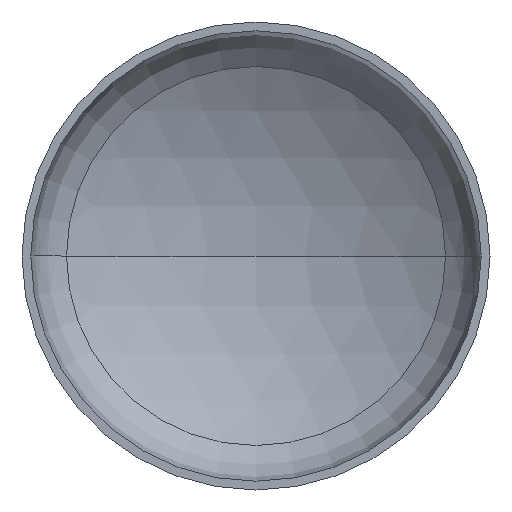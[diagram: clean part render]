
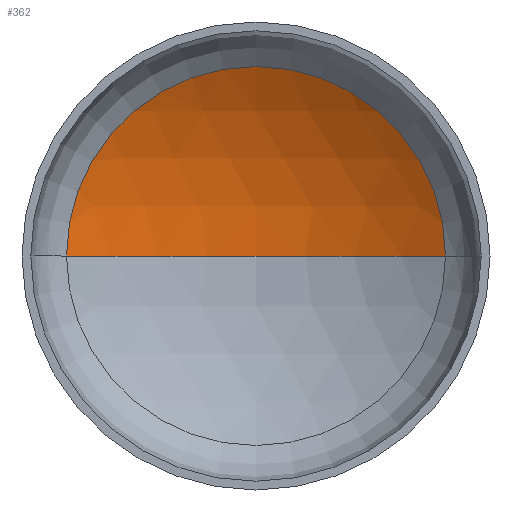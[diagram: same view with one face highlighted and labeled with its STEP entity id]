
A CAD part, front view. The second image highlights one B-rep face of the part: STEP entity #362.
In plain terms, the highlighted spherical face has radius 2720 mm.
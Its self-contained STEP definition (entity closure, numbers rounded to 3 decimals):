
#3 = CARTESIAN_POINT ( 'NONE',  ( 0., 572.784, 0. ) ) ;
#4 = AXIS2_PLACEMENT_3D ( 'NONE', #328, #169, #144 ) ;
#12 = ORIENTED_EDGE ( 'NONE', *, *, #148, .F. ) ;
#16 = ORIENTED_EDGE ( 'NONE', *, *, #140, .T. ) ;
#26 = EDGE_LOOP ( 'NONE', ( #12, #16, #165 ) ) ;
#45 = AXIS2_PLACEMENT_3D ( 'NONE', #213, #215, #263 ) ;
#48 = AXIS2_PLACEMENT_3D ( 'NONE', #399, #361, #194 ) ;
#50 = AXIS2_PLACEMENT_3D ( 'NONE', #3, #220, #221 ) ;
#55 = VERTEX_POINT ( 'NONE', #351 ) ;
#100 = VERTEX_POINT ( 'NONE', #186 ) ;
#103 = VERTEX_POINT ( 'NONE', #205 ) ;
#121 = EDGE_CURVE ( 'NONE', #103, #55, #332, .T. ) ;
#135 = CIRCLE ( 'NONE', #48, 2720. ) ;
#140 = EDGE_CURVE ( 'NONE', #100, #103, #135, .T. ) ;
#144 = DIRECTION ( 'NONE',  ( -1., 0., 0. ) ) ;
#148 = EDGE_CURVE ( 'NONE', #100, #55, #372, .T. ) ;
#165 = ORIENTED_EDGE ( 'NONE', *, *, #121, .T. ) ;
#169 = DIRECTION ( 'NONE',  ( 0., 0., -1. ) ) ;
#186 = CARTESIAN_POINT ( 'NONE',  ( 0., 946.933, 0. ) ) ;
#194 = DIRECTION ( 'NONE',  ( -1., 0., 0. ) ) ;
#205 = CARTESIAN_POINT ( 'NONE',  ( 1376.729, 572.784, 0. ) ) ;
#213 = CARTESIAN_POINT ( 'NONE',  ( 0., -1773.067, 0. ) ) ;
#215 = DIRECTION ( 'NONE',  ( 0., 0., 1. ) ) ;
#220 = DIRECTION ( 'NONE',  ( 0., -1., 0. ) ) ;
#221 = DIRECTION ( 'NONE',  ( 1., 0., 0. ) ) ;
#263 = DIRECTION ( 'NONE',  ( 1., 0., 0. ) ) ;
#328 = CARTESIAN_POINT ( 'NONE',  ( 0., -1773.067, 0. ) ) ;
#332 = CIRCLE ( 'NONE', #50, 1376.729 ) ;
#347 = SPHERICAL_SURFACE ( 'NONE', #4, 2720. ) ;
#351 = CARTESIAN_POINT ( 'NONE',  ( -1376.729, 572.784, 0. ) ) ;
#361 = DIRECTION ( 'NONE',  ( 0., 0., -1. ) ) ;
#362 = ADVANCED_FACE ( 'NONE', ( #394 ), #347, .F. ) ;
#372 = CIRCLE ( 'NONE', #45, 2720. ) ;
#394 = FACE_OUTER_BOUND ( 'NONE', #26, .T. ) ;
#399 = CARTESIAN_POINT ( 'NONE',  ( 0., -1773.067, 0. ) ) ;
